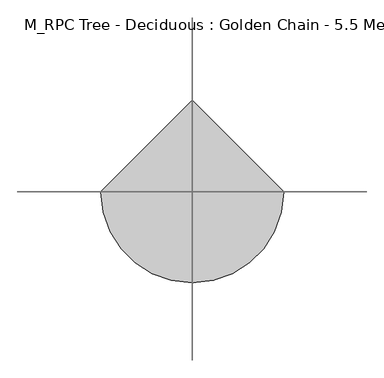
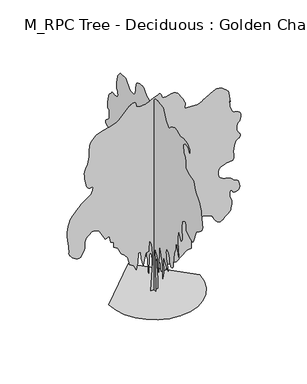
"""IFC4 building model written with IfcOpenShell, lengths in millimetres: geographic element geometry, M_RPC Tree - Deciduous : Golden Chain - 5.5 Meters."""

from ifc_helpers import new_model, si_unit, origin, place, context, project, spatial, triangles, source, transform, mapped, element, save


def m_rpc_tree_deciduous_golden_chain_5_5_meters_6778af60(model_context):
    return source(origin(), model_context, "Body", "Tessellation", [
        triangles([(-0.0021492, 84.2526153, 0.0017055), (-0.0021492, -79.7118042, 0.0017055), (-0.0021492, -55.1171299, 770.634066), (-0.0021492, -30.52271, 1205.1391577), (-0.0021492, -128.9011618, 1090.3648407), (-0.0021492, -161.6941456, 983.7870438), (-0.0021492, -161.6941456, 778.8331295), (-0.0021492, -202.6851937, 614.8669024), (-0.0021492, -227.2798771, 1410.0956154), (-0.0021492, -292.8648273, 1254.3285244), (-0.0021492, -391.2435245, 934.5977497), (-0.0021492, -407.6416878, 557.4810519), (-0.0021492, -448.6319547, 754.2384825), (-0.0021492, -424.0372713, 1123.1586239), (-0.0021492, -399.4426243, 1229.7338047), (-0.0021492, -563.4062716, 1024.7798904), (-0.0021492, -645.3893852, 910.00303), (-0.0021492, -571.6053351, 1164.1488544), (-0.0021492, -566.3701532, 1202.7023878), (-0.0021492, -561.3514189, 1240.6803749), (-0.0021492, -556.7629998, 1277.5125744), (-0.0021492, -552.8187638, 1312.6233673), (-0.0021492, -549.7351948, 1345.442585), (-0.0021492, -547.7261604, 1375.3895943), (-0.0021492, -547.0106518, 1401.8965519), (-0.0021492, -548.2048739, 1425.0576382), (-0.0021492, -551.550709, 1445.6369053), (-0.0021492, -556.6891308, 1464.0644142), (-0.0021492, -563.2636931, 1480.7706619), (-0.0021492, -570.9127539, 1496.1884708), (-0.0021492, -579.2773232, 1510.7457218), (-0.0021492, -588.000955, 1524.870005), (-0.0021492, -615.9185097, 1493.2475166), (-0.0021492, -642.6877333, 1461.6276443), (-0.0021492, -667.1627655, 1430.0051559), (-0.0021492, -688.1976734, 1398.3826675), (-0.0021492, -704.6416552, 1366.7627953), (-0.0021492, -715.3488504, 1335.1403069), (-0.0021492, -719.173399, 1303.5178185), (-0.0021492, -720.8463346, 1273.0922047), (-0.0021492, -725.5315138, 1244.8155876), (-0.0021492, -732.7248247, 1218.3340645), (-0.0021492, -741.9270973, 1193.2836313), (-0.0021492, -752.6342926, 1169.31024), (-0.0021492, -764.3472404, 1146.0549007), (-0.0021492, -776.5592857, 1123.1586239), (-0.0021492, -799.2416948, 1123.4208899), (-0.0021492, -820.9921841, 1125.2618385), (-0.0021492, -840.8787609, 1130.2576818), (-0.0021492, -857.9695055, 1139.9845591), (-0.0021492, -871.3298819, 1156.0210802), (-0.0021492, -880.0305862, 1179.9486168), (-0.0021492, -883.1370827, 1213.3382212), (-0.0021492, -884.8100183, 1255.5711811), (-0.0021492, -889.4951975, 1304.2589069), (-0.0021492, -896.6884357, 1358.3243568), (-0.0021492, -905.890781, 1416.6930325), (-0.0021492, -916.5979763, 1478.2854939), (-0.0021492, -928.3109241, 1542.0320389), (-0.0021492, -940.5255129, 1606.8530823), (-0.0021492, -1006.1104631, 1762.6177025), (-0.0021492, -1030.7051102, 2041.3581013), (-0.0021492, -1137.2829071, 1615.0495296), (-0.0021492, -1096.2900604, 2033.1590378), (-0.0021492, -1120.8847801, 2385.6835957), (-0.0021492, -1260.2563602, 2139.7368347), (-0.0021492, -1270.7241806, 2153.8611179), (-0.0021492, -1280.7616493, 2168.4183689), (-0.0021492, -1289.9410309, 2183.833707), (-0.0021492, -1297.8295029, 2200.5424255), (-0.0021492, -1303.9940975, 2218.9699345), (-0.0021492, -1308.0095501, 2239.5492016), (-0.0021492, -1309.4456543, 2262.7102879), (-0.0021492, -1307.6275967, 2290.0778034), (-0.0021492, -1302.9424175, 2322.033847), (-0.0021492, -1296.538448, 2357.1447853), (-0.0021492, -1289.5590775, 2393.9769848), (-0.0021492, -1283.1526371, 2431.0968121), (-0.0021492, -1278.467458, 2467.0683083), (-0.0021492, -1276.6518711, 2500.45784), (-0.0021492, -1277.8461296, 2532.7959824), (-0.0021492, -1281.1944717, 2566.4375336), (-0.0021492, -1286.3329662, 2601.1435547), (-0.0021492, -1292.9049488, 2636.6899315), (-0.0021492, -1300.5540459, 2672.8981865), (-0.0021492, -1308.9185062, 2709.5395546), (-0.0021492, -1317.642247, 2746.4096878), (-0.0021492, -1349.0965771, 2763.5973015), (-0.0021492, -1379.5477707, 2778.4931946), (-0.0021492, -1407.98993, 2788.7800667), (-0.0021492, -1433.4222439, 2792.1923584), (-0.0021492, -1454.8366344, 2786.4374771), (-0.0021492, -1471.2347614, 2769.1992851), (-0.0021492, -1481.6057854, 2738.2107697), (-0.0021492, -1484.4041611, 2701.900486), (-0.0021492, -1481.8935585, 2669.6135033), (-0.0021492, -1478.8100258, 2640.3309883), (-0.0021492, -1479.8871403, 2613.0602692), (-0.0021492, -1489.8532471, 2586.7825127), (-0.0021492, -1513.444685, 2560.5300453), (-0.0021492, -1555.3924152, 2533.2517685), (-0.0021492, -1606.8988644, 2505.0718025), (-0.0021492, -1655.253035, 2478.4681938), (-0.0021492, -1699.3015091, 2456.025087), (-0.0021492, -1737.903368, 2440.3219757), (-0.0021492, -1769.9076645, 2433.9411152), (-0.0021492, -1794.1662128, 2439.4615631), (-0.0021492, -1809.5357689, 2459.4676094), (-0.0021492, -1957.1037964, 2820.1761154), (-0.0021492, -2096.4727604, 2918.5648773), (-0.0021492, -2133.9033245, 2947.2108032), (-0.0021492, -2168.0337994, 2976.9770096), (-0.0021492, -2197.5760368, 3008.067263), (-0.0021492, -2221.2386913, 3040.5580124), (-0.0021492, -2237.731144, 3074.6530243), (-0.0021492, -2245.7620491, 3110.453746), (-0.0021492, -2244.0407879, 3148.1136566), (-0.0021492, -2235.2459759, 3194.9398682), (-0.0021492, -2223.869054, 3254.6760475), (-0.0021492, -2211.3438011, 3322.1530334), (-0.0021492, -2199.1063213, 3392.2013741), (-0.0021492, -2188.5901028, 3459.67836), (-0.0021492, -2181.2287788, 3519.4145393), (-0.0021492, -2178.4558376, 3566.2154617), (-0.0021492, -2170.3281361, 3608.6875786), (-0.0021492, -2147.5744377, 3658.060437), (-0.0021492, -2112.6315125, 3713.1367264), (-0.0021492, -2067.9338047, 3772.8217461), (-0.0021492, -2015.9257874, 3835.9446373), (-0.0021492, -1959.038998, 3901.3845383), (-0.0021492, -1899.7152935, 3967.9447197), (-0.0021492, -1842.3294067, 4197.4932083), (-0.0021492, -1629.1739582, 4246.6875893), (-0.0021492, -1457.0136818, 4328.652935), (-0.0021492, -1458.3505188, 4335.1970123), (-0.0021492, -1461.6963902, 4352.7409996), (-0.0021492, -1466.0480141, 4378.3565872), (-0.0021492, -1470.3970219, 4408.9631493), (-0.0021492, -1473.7428932, 4441.6065056), (-0.0021492, -1475.082201, 4473.2060303), (-0.0021492, -1473.409338, 4500.8334137), (-0.0021492, -1467.7438408, 4526.8565346), (-0.0021492, -1458.2079403, 4555.4515915), (-0.0021492, -1445.4433125, 4586.2107605), (-0.0021492, -1430.0993362, 4618.7015099), (-0.0021492, -1412.8176876, 4652.4654373), (-0.0021492, -1394.2474548, 4687.1205894), (-0.0021492, -1375.0306046, 4722.1829842), (-0.0021492, -1342.2368214, 4918.9352188), (-0.0021492, -1448.8146183, 5009.1250626), (-0.0021492, -1579.9871349, 4984.5277267), (-0.0021492, -1653.7685326, 4877.9400467), (-0.0021492, -1653.7685326, 4976.3288086), (-0.0021492, -1538.9942883, 5082.8914902), (-0.0021492, -1350.4358849, 5107.488826), (-0.0021492, -1202.8678574, 5074.692572), (-0.0021492, -1055.2998299, 5156.6829163), (-0.0021492, -948.7220329, 5164.8818344), (-0.0021492, -940.8819592, 5161.1390396), (-0.0021492, -920.1372952, 5151.1065125), (-0.0021492, -890.6409851, 5136.4911255), (-0.0021492, -856.5588358, 5118.9980072), (-0.0021492, -822.0437914, 5100.3334488), (-0.0021492, -791.2590425, 5082.280481), (-0.0021492, -768.3627657, 5066.4930725), (-0.0021492, -752.5400396, 5050.8591431), (-0.0021492, -739.1541561, 5033.7985565), (-0.0021492, -726.6289759, 5017.8844116), (-0.0021492, -713.3882143, 5005.6874817), (-0.0021492, -697.8532614, 4999.805864), (-0.0021492, -678.4453617, 5002.8359116), (-0.0021492, -653.5859053, 5017.2989822), (-0.0021492, -627.1527803, 5039.5790176), (-0.0021492, -603.7294281, 5064.0234558), (-0.0021492, -582.814135, 5090.2247635), (-0.0021492, -563.9078762, 5117.8777267), (-0.0021492, -546.5090472, 5146.6253906), (-0.0021492, -530.1108839, 5176.0602219), (-0.0021492, -514.2169049, 5205.8775879), (-0.0021492, -415.8382078, 5410.8290314), (-0.0021492, -169.8924643, 5451.8242035), (-0.0021492, -163.845268, 5451.6713058), (-0.0021492, -147.6161895, 5450.6783432), (-0.0021492, -124.0728773, 5447.9540909), (-0.0021492, -96.0842423, 5442.6323227), (-0.0021492, -66.5181736, 5433.8985535), (-0.0021492, -38.2425694, 5420.8359787), (-0.0021492, -14.1260625, 5402.6295319), (-0.0021492, 3.3458589, 5384.2457703), (-0.0021492, 15.2248406, 5370.0373352), (-0.0021492, 23.9488607, 5358.0950409), (-0.0021492, 31.9557643, 5346.6114395), (-0.0021492, 41.6836339, 5333.6761826), (-0.0021492, 55.5706269, 5317.4306625), (-0.0021492, 76.0543103, 5296.0418518), (-0.0021492, 97.13535, 5271.2916183), (-0.0021492, 113.1971331, 5247.5349289), (-0.0021492, 127.2514169, 5226.7827072), (-0.0021492, 142.3091915, 5211.0464584), (-0.0021492, 161.3827366, 5202.3638489), (-0.0021492, 187.483033, 5202.6946426), (-0.0021492, 223.6221062, 5214.076506), (-0.0021492, 264.351397, 5233.7851868), (-0.0021492, 302.4974698, 5257.3889786), (-0.0021492, 338.4919115, 5284.2012955), (-0.0021492, 372.7676173, 5313.5855484), (-0.0021492, 405.7523409, 5344.9307281), (-0.0021492, 437.8763975, 5377.549086), (-0.0021492, 469.5675954, 5410.8290314), (-0.0021492, 492.466452, 5419.4860611), (-0.0021492, 515.7217913, 5427.3286057), (-0.0021492, 539.6951463, 5433.618338), (-0.0021492, 564.7456158, 5437.5396103), (-0.0021492, 591.2271026, 5438.3035172), (-0.0021492, 619.503756, 5435.1205719), (-0.0021492, 649.9294424, 5427.2268677), (-0.0021492, 681.4067362, 5417.9076691), (-0.0021492, 712.0259428, 5409.8610672), (-0.0021492, 740.9213448, 5401.4075134), (-0.0021492, 767.2373257, 5390.7895569), (-0.0021492, 790.1107115, 5376.3009064), (-0.0021492, 808.6833424, 5356.2364334), (-0.0021492, 822.0921896, 5328.8381058), (-0.0021492, 831.6764156, 5297.4679276), (-0.0021492, 839.5393805, 5266.5047012), (-0.0021492, 845.9687845, 5235.9240097), (-0.0021492, 851.2523283, 5205.5973724), (-0.0021492, 855.672698, 5175.5253708), (-0.0021492, 859.522681, 5145.5556885), (-0.0021492, 863.0824202, 5115.6877441), (-0.0021492, 868.5086151, 5085.9976959), (-0.0021492, 874.8667299, 5057.4029297), (-0.0021492, 883.0886845, 5030.9469864), (-0.0021492, 894.1065439, 5007.6989868), (-0.0021492, 908.8546263, 4988.7803741), (-0.0021492, 928.2625259, 4975.2085281), (-0.0021492, 953.2646336, 4968.1298904), (-0.0021492, 983.5706326, 4964.7940475), (-0.0021492, 1017.0340696, 4962.6296448), (-0.0021492, 1051.7859455, 4962.7313828), (-0.0021492, 1085.9648186, 4966.2962814), (-0.0021492, 1117.7069944, 4974.4446213), (-0.0021492, 1145.1458719, 4988.347261), (-0.0021492, 1166.4176113, 5009.1250626), (-0.0021492, 1187.9516893, 5037.6180908), (-0.0021492, 1215.2250246, 5071.5857849), (-0.0021492, 1244.9327316, 5107.4120865), (-0.0021492, 1273.7822788, 5141.5326782), (-0.0021492, 1298.4736496, 5170.3309204), (-0.0021492, 1315.7070454, 5190.2430771), (-0.0021492, 1322.1822315, 5197.6786697), (-0.0021492, 1576.328056, 5181.2802521), (-0.0021492, 1674.7067894, 5058.2941544), (-0.0021492, 1679.9878624, 5049.3057495), (-0.0021492, 1685.3426228, 5039.1203247), (-0.0021492, 1690.840107, 5026.4652832), (-0.0021492, 1696.5540024, 5010.1691849), (-0.0021492, 1702.550584, 4988.9838501), (-0.0021492, 1708.9086262, 4961.7134216), (-0.0021492, 1715.69702, 4927.1347183), (-0.0021492, 1722.2461842, 4888.9655365), (-0.0021492, 1727.9344997, 4851.6622902), (-0.0021492, 1732.907452, 4815.0465019), (-0.0021492, 1737.304858, 4779.0417229), (-0.0021492, 1741.2720577, 4743.4444771), (-0.0021492, 1744.9539551, 4708.1530266), (-0.0021492, 1748.4908031, 4672.9886032), (-0.0021492, 1731.0893944, 4648.3403984), (-0.0021492, 1714.6937382, 4623.4122688), (-0.0021492, 1700.3046455, 4597.9237083), (-0.0021492, 1688.927869, 4571.5442139), (-0.0021492, 1681.5665451, 4544.0441483), (-0.0021492, 1679.2239555, 4515.0927177), (-0.0021492, 1682.9058529, 4484.4352867), (-0.0021492, 1691.9172215, 4457.546521), (-0.0021492, 1704.798848, 4438.9584114), (-0.0021492, 1721.4109154, 4426.9908279), (-0.0021492, 1741.6082291, 4419.8866104), (-0.0021492, 1765.2454491, 4415.940049), (-0.0021492, 1792.1827583, 4413.4445618), (-0.0021492, 1822.2748169, 4410.6435699), (-0.0021492, 1851.5776794, 4410.5162521), (-0.0021492, 1877.0099934, 4414.7177399), (-0.0021492, 1899.7152935, 4419.453788), (-0.0021492, 1920.8445271, 4421.0580505), (-0.0021492, 1941.543409, 4415.7871513), (-0.0021492, 1962.9576542, 4399.8982956), (-0.0021492, 1986.2385006, 4369.6483978), (-0.0021492, 2009.8529022, 4339.016256), (-0.0021492, 2031.6033188, 4320.2755394), (-0.0021492, 2051.6324741, 4307.2641243), (-0.0021492, 2070.0854176, 4293.8451759), (-0.0021492, 2087.1024021, 4273.8057014), (-0.0021492, 2102.8308025, 4241.0094475), (-0.0021492, 2117.4110172, 4189.2939995), (-0.0021492, 2130.4606567, 4132.1297562), (-0.0021492, 2141.5040234, 4085.4561516), (-0.0021492, 2150.5382103, 4046.6759605), (-0.0021492, 2157.565979, 4013.1922485), (-0.0021492, 2162.5848587, 3982.4330795), (-0.0021492, 2165.5945587, 3951.8009377), (-0.0021492, 2166.6003113, 3918.7500481), (-0.0021492, 2163.9699486, 3888.1437767), (-0.0021492, 2156.6086246, 3865.7361328), (-0.0021492, 2145.3030647, 3850.1274925), (-0.0021492, 2130.8426102, 3839.9676476), (-0.0021492, 2114.0167477, 3833.9075523), (-0.0021492, 2095.6120571, 3830.5464203), (-0.0021492, 2076.4181705, 3828.5602043), (-0.0021492, 2076.4181705, 3615.4098427), (-0.0021492, 2076.5861835, 3611.7687859), (-0.0021492, 2077.7574783, 3607.2362137), (-0.0021492, 2080.9351913, 3600.9979317), (-0.0021492, 2087.1278366, 3592.1877136), (-0.0021492, 2097.3334637, 3579.9143349), (-0.0021492, 2112.5576797, 3563.3636009), (-0.0021492, 2133.8065281, 3541.6437057), (-0.0021492, 2158.6890209, 3518.8288193), (-0.0021492, 2183.2835953, 3498.7640556), (-0.0021492, 2206.2996323, 3480.0997879), (-0.0021492, 2226.4484024, 3461.6134163), (-0.0021492, 2242.4391415, 3441.9561859), (-0.0021492, 2252.9807945, 3419.8796265), (-0.0021492, 2256.7799812, 3394.0602722), (-0.0021492, 2250.3276134, 3369.7687317), (-0.0021492, 2232.2566235, 3352.3773514), (-0.0021492, 2204.5070091, 3340.7152725), (-0.0021492, 2169.0142628, 3333.6366348), (-0.0021492, 2127.7106792, 3329.995578), (-0.0021492, 2082.5368378, 3328.6715309), (-0.0021492, 2035.4277946, 3328.4677643), (-0.0021492, 2021.5658501, 3329.995578), (-0.0021492, 2008.8496204, 3330.1737648), (-0.0021492, 1998.4275822, 3327.6274086), (-0.0021492, 1991.4508278, 3320.9815933), (-0.0021492, 1989.05984, 3308.886692), (-0.0021492, 1992.405566, 3289.9677887), (-0.0021492, 2002.6366276, 3262.9005455), (-0.0021492, 2020.3945553, 3234.9676575), (-0.0021492, 2044.3195484, 3213.2224731), (-0.0021492, 2072.5477673, 3195.7802238), (-0.0021492, 2103.212756, 3180.7570129), (-0.0021492, 2134.4508202, 3166.3195221), (-0.0021492, 2164.4003002, 3150.6088531), (-0.0021492, 2191.195031, 3131.7155296), (-0.0021492, 2214.6667088, 3115.4700096), (-0.0021492, 2235.4113728, 3106.0996513), (-0.0021492, 2252.7159851, 3099.4538361), (-0.0021492, 2265.8625664, 3091.381945), (-0.0021492, 2274.1329918, 3077.7083611), (-0.0021492, 2276.8091366, 3054.2824654), (-0.0021492, 2273.1754921, 3016.9539299), (-0.0021492, 2263.7593517, 2975.5765137), (-0.0021492, 2250.0398403, 2941.939904), (-0.0021492, 2232.735228, 2914.7709229), (-0.0021492, 2212.5634941, 2892.7455231), (-0.0021492, 2190.2375313, 2874.6158157), (-0.0021492, 2166.4806965, 2859.0580444), (-0.0021492, 2142.0055916, 2844.7731606), (-0.0021492, 2133.3761765, 2827.1783043), (-0.0021492, 2125.6812973, 2809.2779434), (-0.0021492, 2119.8477871, 2790.7918625), (-0.0021492, 2116.8125072, 2771.4654259), (-0.0021492, 2117.5051975, 2750.9675491), (-0.0021492, 2122.8599579, 2729.044178), (-0.0021492, 2133.8065281, 2705.4145157), (-0.0021492, 2153.6931049, 2682.9815826), (-0.0021492, 2182.4714355, 2663.4005104), (-0.0021492, 2215.980582, 2644.532476), (-0.0021492, 2250.062804, 2624.2386566), (-0.0021492, 2280.5623959, 2600.3543587), (-0.0021492, 2303.3160942, 2570.7407593), (-0.0021492, 2314.1683388, 2533.2517685), (-0.0021492, 2316.6306885, 2491.7827881), (-0.0021492, 2316.7960854, 2450.4562408), (-0.0021492, 2314.3822792, 2407.4085777), (-0.0021492, 2309.1012062, 2360.7782845), (-0.0021492, 2300.6627678, 2308.6964344), (-0.0021492, 2288.7842777, 2249.3015133), (-0.0021492, 2273.1754921, 2180.7272106), (-0.0021492, 2256.9479942, 2122.3126076), (-0.0021492, 2242.7269146, 2087.8459614), (-0.0021492, 2229.5091167, 2067.1470795), (-0.0021492, 2216.2913189, 2050.0334438), (-0.0021492, 2202.0702393, 2026.3248619), (-0.0021492, 2185.8401253, 1985.8335835), (-0.0021492, 2166.6003113, 1918.3847935), (-0.0021492, 2149.5808559, 1842.5203835), (-0.0021492, 2138.8736607, 1783.2936207), (-0.0021492, 2131.7517117, 1740.2713921), (-0.0021492, 2125.4903206, 1713.0234913), (-0.0021492, 2117.362619, 1701.1195667), (-0.0021492, 2104.6463894, 1704.1317375), (-0.0021492, 2084.617234, 1721.6273266), (-0.0021492, 2060.5012642, 1758.0775726), (-0.0021492, 2037.2458523, 1813.4570412), (-0.0021492, 2014.7060944, 1880.5977104), (-0.0021492, 1992.7391212, 1952.324437), (-0.0021492, 1971.2051159, 2021.4716698), (-0.0021492, 1949.9562675, 2080.8664455), (-0.0021492, 1928.8526138, 2123.3387077), (-0.0021492, 1903.2291779, 2154.4824463), (-0.0021492, 1869.4322582, 2184.7680977), (-0.0021492, 1828.8238358, 2214.3331535), (-0.0021492, 1782.7664726, 2243.3252792), (-0.0021492, 1732.6196789, 2271.8870533), (-0.0021492, 1679.7509583, 2300.1636703), (-0.0021492, 1625.51735, 2328.2952381), (-0.0021492, 1580.1042789, 2357.6693172), (-0.0021492, 1536.2697453, 2384.1049129), (-0.0021492, 1495.5901062, 2404.6612164), (-0.0021492, 1459.6414284, 2416.3971279), (-0.0021492, 1430.0025398, 2416.3715481), (-0.0021492, 1408.2521233, 2401.6489002), (-0.0021492, 1395.9662453, 2369.2854687), (-0.0021492, 1387.7442181, 2327.3633183), (-0.0021492, 1377.3731941, 2285.8713741), (-0.0021492, 1365.2069309, 2244.7359489), (-0.0021492, 1351.6071796, 2203.8882969), (-0.0021492, 1336.9303139, 2163.2544399), (-0.0021492, 1321.5379395, 2122.7657776), (-0.0021492, 1305.7865753, 2082.3484772), (-0.0021492, 1125.4248373, 1926.583857), (-0.0021492, 1107.9775738, 1907.1276318), (-0.0021492, 1091.2458916, 1886.8820652), (-0.0021492, 1075.9502409, 1865.0602867), (-0.0021492, 1062.8037323, 1840.8729549), (-0.0021492, 1052.5268887, 1813.5282578), (-0.0021492, 1045.8352186, 1782.2419407), (-0.0021492, 1043.4442308, 1746.2220463), (-0.0021492, 1042.7261787, 1711.1595062), (-0.0021492, 1040.7196878, 1682.5468632), (-0.0021492, 1037.6361551, 1659.3168858), (-0.0021492, 1033.6919191, 1640.3851925), (-0.0021492, 1029.1035364, 1624.6822266), (-0.0021492, 1024.0847294, 1611.1308735), (-0.0021492, 1018.8495838, 1598.6540188), (-0.0021492, 871.2814837, 1500.2752853), (-0.0021492, 854.8859001, 1328.1125381), (-0.0021492, 731.9125196, 1270.7241806), (-0.0021492, 699.1188091, 1057.5711302), (-0.0021492, 567.9463288, 1024.7798904), (-0.0021492, 579.9928319, 1019.3537682), (-0.0021492, 590.5345213, 1012.9956533), (-0.0021492, 598.0638946, 1004.7736261), (-0.0021492, 601.0736309, 993.7558393), (-0.0021492, 598.0638946, 979.0076843), (-0.0021492, 587.5222415, 959.5997847), (-0.0021492, 567.9463288, 934.5977497), (-0.0021492, 544.3090362, 908.8801334), (-0.0021492, 522.3905339, 887.4631994), (-0.0021492, 501.9081359, 869.6340551), (-0.0021492, 482.5715618, 854.6720324), (-0.0021492, 464.0956183, 841.8616224), (-0.0021492, 446.192605, 830.4822298), (-0.0021492, 428.5773285, 819.8234327), (-0.0021492, 416.3169213, 852.4974558), (-0.0021492, 404.2703819, 880.9396151), (-0.0021492, 392.6541942, 900.9203722), (-0.0021492, 381.6821895, 908.2104795), (-0.0021492, 371.5733952, 898.5777826), (-0.0021492, 362.5365921, 867.7931065), (-0.0021492, 354.7933147, 811.6243692), (-0.0021492, 347.289376, 757.5588467), (-0.0021492, 338.9222268, 728.4470335), (-0.0021492, 329.8396053, 713.1030573), (-0.0021492, 320.1840537, 700.3409729), (-0.0021492, 310.0981504, 678.9725098), (-0.0021492, 299.7245467, 637.8141209), (-0.0021492, 289.2083463, 565.677572), (-0.0021492, 280.1002358, 485.3215393), (-0.0021492, 273.5766333, 424.7553234), (-0.0021492, 269.2021002, 380.6814875), (-0.0021492, 266.5488464, 349.8000149), (-0.0021492, 265.1865749, 328.815976), (-0.0021492, 264.6849704, 314.426847), (-0.0021492, 264.613663, 303.3351912), (-0.0021492, 240.0187434, 811.6243692), (-0.0021492, 227.6618124, 844.6574547), (-0.0021492, 214.9461096, 875.6102165), (-0.0021492, 201.5133903, 902.4023312), (-0.0021492, 187.005355, 922.9585619), (-0.0021492, 171.062996, 935.1961143), (-0.0021492, 153.328032, 937.037063), (-0.0021492, 133.4419729, 926.401157), (-0.0021492, 115.707018, 904.291678), (-0.0021492, 103.9950694, 874.0085701), (-0.0021492, 97.3026454, 836.9141773), (-0.0021492, 94.6257194, 794.3680824), (-0.0021492, 94.9603011, 747.7377892), (-0.0021492, 97.3026454, 698.3803368), (-0.0021492, 100.6487348, 647.6606855), (-0.0021492, 84.2526153, 237.7499866), (88.4435659, 0.0002505, 0.0), (-86.3932913, 0.0002505, 0.0), (-44.7656723, 0.0002025, 807.5807934), (-36.4400473, 0.0001919, 1032.3704155), (-69.7422955, 0.0001759, 1307.1158546), (-128.0216733, 0.0001652, 1448.6490761), (-144.6726646, 0.0001865, 1140.6032713), (-227.9278935, 0.0001865, 1115.6266708), (-294.532658, 0.0002025, 799.2544121), (-352.8122947, 0.0001919, 999.0699772), (-361.138676, 0.0001812, 1182.2301636), (-427.7421324, 0.0001812, 1182.2301636), (-444.3923879, 0.0001972, 915.8137218), (-486.0217873, 0.0002079, 732.6509193), (-552.6252437, 0.0002025, 874.1842861), (-660.8581358, 0.0001972, 940.7903223), (-702.4849554, 0.0001812, 1157.2534904), (-785.7412107, 0.0001759, 1257.1625084), (-877.3238474, 0.0001759, 1332.0923824), (-977.2303219, 0.0001599, 1523.5789501), (-1085.4632504, 0.0001599, 1581.8586777), (-1085.4632504, 0.0001492, 1723.3945152), (-1160.3931244, 0.0001492, 1748.3711884), (-1202.019944, 0.0001386, 1939.857756), (-1318.5792538, 0.0001386, 1889.9044098), (-1468.4390018, 0.0001226, 2172.9736141), (-1502.3250149, 0.0001226, 2194.0442757), (-1536.1347244, 0.0001226, 2213.0727654), (-1569.8018555, 0.0001173, 2228.0246143), (-1603.2501045, 0.0001173, 2236.8602669), (-1636.4053482, 0.0001173, 2237.5401672), (-1669.1991314, 0.0001173, 2228.0246143), (-1701.5548599, 0.0001226, 2206.2766685), (-1733.4726791, 0.0001226, 2179.018594), (-1764.2269066, 0.0001226, 2153.3621658), (-1792.651189, 0.0001279, 2127.850787), (-1817.579464, 0.0001279, 2101.0306217), (-1837.8479942, 0.0001279, 2071.4426022), (-1852.2879559, 0.0001332, 2037.6304218), (-1859.7409893, 0.0001332, 1998.1373383), (-1862.0709343, 0.0001386, 1954.9318359), (-1863.0894768, 0.0001386, 1911.4359444), (-1864.5459286, 0.0001439, 1868.3754913), (-1868.1871307, 0.0001439, 1826.4812462), (-1875.759779, 0.0001439, 1786.4790367), (-1889.0133305, 0.0001492, 1749.0993416), (-1909.6943356, 0.0001492, 1715.0681339), (-1930.6655846, 0.0001546, 1683.7079842), (-1945.9586918, 0.0001546, 1654.8226833), (-1959.0644325, 0.0001546, 1629.87159), (-1973.4840466, 0.0001546, 1610.3057785), (-1992.7085999, 0.0001599, 1597.5870781), (-2020.2341, 0.0001599, 1593.1693245), (-2059.5539383, 0.0001599, 1598.5088242), (-2106.0849644, 0.0001546, 1614.4818317), (-2151.4523987, 0.0001546, 1639.6289886), (-2193.4662586, 0.0001546, 1671.9108845), (-2229.9496422, 0.0001492, 1709.2905796), (-2258.7125668, 0.0001492, 1749.7308437), (-2277.5730434, 0.0001439, 1791.1870342), (-2284.3435604, 0.0001439, 1831.6274437), (-2284.0049183, 0.0001439, 1867.2347179), (-2283.6662762, 0.0001386, 1899.34613), (-2284.3435604, 0.0001386, 1933.6447632), (-2287.0630165, 0.0001332, 1975.8062885), (-2292.8405708, 0.0001332, 2031.5116093), (-2302.6947659, 0.0001279, 2106.4440994), (-2317.6466148, 0.0001226, 2206.2766685), (-2328.3767738, 0.0001119, 2318.4664776), (-2327.0169731, 0.0001066, 2424.8304794), (-2316.773267, 0.0001013, 2522.6006744), (-2300.8512737, 9.59e-05, 2609.0116791), (-2282.4516701, 9.06e-05, 2681.301162), (-2264.780365, 9.06e-05, 2736.6829559), (-2251.0431221, 8.53e-05, 2772.4075195), (-2228.7604706, 8.53e-05, 2807.0370918), (-2187.9815643, 7.99e-05, 2856.639006), (-2135.6984184, 7.99e-05, 2914.8473717), (-2078.9007225, 7.46e-05, 2975.2454292), (-2024.5780209, 7.46e-05, 3031.4167099), (-1979.7200031, 6.93e-05, 3076.9444542), (-1951.3211552, 6.93e-05, 3105.4374825), (-1924.2819626, 6.4e-05, 3127.0812195), (-1882.823156, 6.4e-05, 3155.2940323), (-1832.9183533, 6.4e-05, 3188.4469505), (-1780.5385563, 5.86e-05, 3224.9607101), (-1731.6521507, 5.86e-05, 3263.2060501), (-1692.2328999, 5.33e-05, 3301.6042877), (-1668.2519508, 5.33e-05, 3338.5511604), (-1656.1646072, 5.33e-05, 3371.3218346), (-1648.0088551, 4.8e-05, 3398.84748), (-1643.1300831, 4.8e-05, 3421.9931602), (-1640.8716454, 4.8e-05, 3441.6759705), (-1640.5812561, 4.8e-05, 3458.7106865), (-1641.5997986, 4.8e-05, 3473.988533), (-1643.2752777, 4.26e-05, 3488.4260239), (-1673.4947994, 4.26e-05, 3483.4862091), (-1703.0597099, 4.26e-05, 3481.1180397), (-1731.3135086, 4.26e-05, 3483.8172935), (-1757.6014389, 4.26e-05, 3494.1806145), (-1781.2667095, 4.26e-05, 3514.7546494), (-1801.6574707, 4.26e-05, 3548.0601746), (-1818.1141697, 3.73e-05, 3596.6435463), (-1832.6281094, 3.2e-05, 3658.2386238), (-1846.5614159, 3.2e-05, 3726.3519081), (-1858.3075012, 2.66e-05, 3797.4190819), (-1866.2698059, 2.13e-05, 3867.7223488), (-1868.8440674, 1.6e-05, 3933.671521), (-1864.4261684, 1.6e-05, 3991.625251), (-1851.414608, 1.07e-05, 4037.8913223), (-1831.8514126, 1.07e-05, 4080.6180748), (-1810.1034668, 5.3e-06, 4129.8889046), (-1788.0628063, 5.3e-06, 4185.1436714), (-1767.626263, 0.0, 4245.7710754), (-1750.6831112, -5.3e-06, 4311.2106857), (-1739.1280025, -1.07e-05, 4380.8773636), (-1734.8579144, -1.07e-05, 4454.1853889), (-1735.4894165, -1.6e-05, 4523.877356), (-1735.8280586, -2.13e-05, 4584.5303398), (-1733.5466572, -2.13e-05, 4638.3334511), (-1726.3125057, -2.66e-05, 4687.5025429), (-1711.7987114, -3.2e-05, 4734.1761475), (-1687.6699516, -3.2e-05, 4780.5442474), (-1651.601659, -3.73e-05, 4828.8218239), (-1604.6581581, -3.73e-05, 4875.2407928), (-1551.3056007, -4.26e-05, 4914.6575729), (-1494.3144573, -4.26e-05, 4947.2247711), (-1436.4472046, -4.26e-05, 4973.1202835), (-1380.4746037, -4.26e-05, 4992.421431), (-1329.161602, -4.8e-05, 5005.3566879), (-1285.2761993, -4.8e-05, 5012.0022125), (-1238.819006, -4.8e-05, 5019.8197586), (-1181.7285227, -4.8e-05, 5034.7665207), (-1119.6854347, -4.8e-05, 5054.8059952), (-1058.3731888, -4.8e-05, 5077.9260956), (-1003.4673832, -5.33e-05, 5102.03974), (-960.651392, -5.33e-05, 5125.1598404), (-935.6009588, -5.33e-05, 5145.1993149), (-669.1845171, -6.93e-05, 5428.27099), (-646.0030106, -6.93e-05, 5444.1601364), (-622.8954094, -7.46e-05, 5458.928421), (-599.9328938, -7.46e-05, 5471.5328842), (-577.1893693, -7.46e-05, 5480.8520828), (-554.7386684, -7.46e-05, 5485.7918976), (-532.6495734, -7.46e-05, 5485.2826263), (-510.9983877, -7.46e-05, 5478.2295685), (-495.8275477, -7.46e-05, 5462.4933197), (-489.5407585, -6.93e-05, 5439.0418442), (-486.7500132, -6.93e-05, 5411.3888809), (-482.064834, -6.93e-05, 5382.9725922), (-470.0972506, -6.93e-05, 5357.3567139), (-445.4618357, -6.4e-05, 5337.9794083), (-402.7655319, -6.4e-05, 5328.3544144), (-352.1553217, -6.4e-05, 5326.9794983), (-306.7905035, -6.4e-05, 5329.5258545), (-265.7951497, -6.4e-05, 5335.3568939), (-228.2925333, -6.4e-05, 5343.8104477), (-193.4123404, -6.4e-05, 5354.2249283), (-160.2801876, -6.93e-05, 5365.9375854), (-128.0216733, -6.93e-05, 5378.3124115), (-76.4902348, -6.93e-05, 5408.3588333), (-26.1968067, -6.93e-05, 5436.7501236), (21.6206779, -7.46e-05, 5461.7805725), (65.7244948, -7.46e-05, 5481.7688873), (104.8766017, -7.46e-05, 5495.0605179), (137.8389157, -7.46e-05, 5500.0003326), (163.3739486, -7.46e-05, 5494.8820404), (179.7578323, -7.46e-05, 5482.2525787), (188.4231282, -7.46e-05, 5466.2872742), (192.8648993, -7.46e-05, 5447.6994553), (196.5786624, -6.93e-05, 5427.2012878), (203.0594986, -6.93e-05, 5405.5578415), (215.8026888, -6.93e-05, 5383.4562836), (238.3035501, -6.93e-05, 5361.6599396), (275.7078804, -6.4e-05, 5352.0093658), (327.5301169, -6.93e-05, 5359.8263306), (388.8194718, -6.93e-05, 5376.0974304), (454.6234131, -6.93e-05, 5391.7569397), (519.9893723, -6.93e-05, 5397.8426147), (579.9673974, -6.93e-05, 5385.2643127), (629.6048836, -6.4e-05, 5345.0068863), (669.510442, -6.4e-05, 5289.625383), (704.1731518, -5.86e-05, 5237.2989258), (734.4638901, -5.86e-05, 5187.5188248), (761.2611643, -5.33e-05, 5139.7758087), (785.4382496, -5.33e-05, 5093.5606064), (807.8660231, -4.8e-05, 5048.3633652), (829.420376, -4.8e-05, 5003.6759766), (821.0939947, -3.73e-05, 4853.8011131), (1104.163199, -3.73e-05, 4837.1483505), (1130.912075, -3.73e-05, 4839.0834068), (1157.5870457, -3.73e-05, 4841.7826607), (1184.116967, -3.73e-05, 4846.1111755), (1210.4303318, -3.73e-05, 4852.8334396), (1236.4509819, -3.73e-05, 4862.7639381), (1262.10741, -3.73e-05, 4876.6921577), (1287.3259289, -3.73e-05, 4895.433165), (1317.642247, -4.26e-05, 4918.5532654), (1357.5732399, -4.26e-05, 4944.7039948), (1405.5097034, -4.26e-05, 4973.4260788), (1459.8579849, -4.8e-05, 5004.1852478), (1519.010915, -4.8e-05, 5036.4722305), (1581.3671379, -4.8e-05, 5069.7527573), (1645.3250072, -5.33e-05, 5103.5675537), (1684.4540142, -5.33e-05, 5099.8497574), (1722.8521065, -5.33e-05, 5095.2663162), (1759.7963631, -5.33e-05, 5088.9515854), (1794.5558693, -4.8e-05, 5079.9887604), (1826.3998558, -4.8e-05, 5067.5371948), (1854.6051109, -4.8e-05, 5050.7062454), (1878.4410107, -4.8e-05, 5028.6552658), (1900.2143909, -4.8e-05, 5007.1897156), (1922.1329659, -4.26e-05, 4990.5372437), (1943.3232422, -4.26e-05, 4975.3358459), (1962.9118721, -4.26e-05, 4958.2502609), (1980.023037, -4.26e-05, 4935.9190659), (1993.7857143, -3.73e-05, 4905.0069992), (2003.3267017, -3.73e-05, 4862.1273491), (2036.62714, -2.13e-05, 4620.6877258), (2031.3358932, -2.66e-05, 4643.2223969), (2026.4088684, -2.66e-05, 4661.7340576), (2022.2099968, -2.66e-05, 4672.2502762), (2019.1035004, -2.66e-05, 4670.7477516), (2017.450985, -2.66e-05, 4653.2293442), (2017.6216141, -2.13e-05, 4615.6714622), (2019.9769936, -2.13e-05, 4554.0766754), (2029.0544918, -1.6e-05, 4483.8242775), (2046.7257969, -1.07e-05, 4423.1715843), (2069.3470905, -5.3e-06, 4372.5511276), (2093.2796413, -5.3e-06, 4332.4213097), (2114.8825378, -5.3e-06, 4303.2408234), (2130.5141418, -5.3e-06, 4285.3913315), (2136.5336872, 0.0, 4279.3565254), (2147.5539448, 0.0, 4280.1460121), (2175.7593452, 0.0, 4279.6367409), (2213.8671936, 0.0, 4273.4493279), (2254.5977016, 0.0, 4257.2038078), (2290.6659943, 0.0, 4226.5463768), (2314.794754, 5.3e-06, 4177.0973602), (2319.6963444, 1.07e-05, 4104.5023727), (2308.0216209, 1.07e-05, 4035.0650414), (2289.5024025, 1.6e-05, 3991.3959045), (2267.4871765, 1.6e-05, 3963.6159142), (2245.3241398, 1.6e-05, 3941.7939903), (2226.3694828, 2.13e-05, 3916.0255051), (2213.96399, 2.13e-05, 3876.4308289), (2211.466032, 2.66e-05, 3813.104171), (2219.5963497, 2.66e-05, 3747.2826073), (2234.7188278, 3.2e-05, 3702.4167412), (2253.6250866, 3.2e-05, 3671.9886566), (2273.1169201, 3.73e-05, 3649.4284058), (2289.9862392, 3.73e-05, 3628.141333), (2301.0320766, 3.73e-05, 3601.6598099), (2303.0461979, 4.26e-05, 3563.3380211), (2294.2843781, 4.26e-05, 3529.0395332), (2276.7837021, 4.26e-05, 3512.233873), (2253.0190189, 4.26e-05, 3502.8382256), (2225.4707005, 4.26e-05, 3490.8194824), (2196.6083633, 4.8e-05, 3466.1204086), (2168.9148502, 4.8e-05, 3418.7340569), (2144.8600685, 5.33e-05, 3338.5511604), (2129.882785, 5.86e-05, 3243.8796135), (2124.958231, 6.4e-05, 3160.284716), (2125.8545425, 6.93e-05, 3088.6321129), (2128.3549713, 7.46e-05, 3029.812738), (2128.2327404, 7.46e-05, 2984.6666565), (2121.2660145, 7.46e-05, 2954.0856743), (2103.2331036, 7.99e-05, 2938.9351456), (2080.3674934, 7.99e-05, 2933.5625084), (2059.979203, 7.99e-05, 2930.6853584), (2039.4433926, 7.99e-05, 2928.6482735), (2016.1421986, 7.99e-05, 2925.9237305), (1987.4504906, 7.99e-05, 2920.8565979), (1950.7506958, 7.99e-05, 2911.8426132), (1903.4176838, 7.99e-05, 2897.3033844), (1853.5127357, 7.99e-05, 2880.1413506), (1811.035532, 7.99e-05, 2862.9793167), (1776.2784966, 8.53e-05, 2843.7801979), (1749.5296932, 8.53e-05, 2820.5069092), (1731.0818367, 8.53e-05, 2791.0973671), (1721.2276417, 9.06e-05, 2753.5647743), (1720.2574974, 9.06e-05, 2705.8217583), (1723.631274, 9.59e-05, 2658.5115646), (1727.8785439, 9.59e-05, 2621.9722252), (1734.8910519, 9.59e-05, 2593.7338326), (1746.5683914, 0.0001013, 2571.3520592), (1764.7947498, 0.0001013, 2552.2802582), (1791.4723366, 0.0001013, 2534.1046234), (1828.4878098, 0.0001013, 2514.3224007), (1873.0047146, 0.0001013, 2496.0453186), (1919.5611752, 0.0001066, 2482.2824959), (1966.1151649, 0.0001066, 2470.414325), (2010.6320698, 0.0001066, 2457.815094), (2051.0697178, 0.0001066, 2441.8678116), (2085.3913147, 0.0001066, 2419.9517075), (2111.5570141, 0.0001119, 2389.4394711), (2135.660194, 0.0001119, 2361.79174), (2163.6949654, 0.0001119, 2345.6507195), (2193.4790485, 0.0001119, 2334.1695889), (2222.8250771, 0.0001119, 2320.5060333), (2249.5484459, 0.0001173, 2297.8084362), (2271.4670208, 0.0001173, 2259.2397148), (2286.3959061, 0.0001226, 2197.9502872), (2290.3019176, 0.0001279, 2132.9738754), (2281.9781525, 0.0001279, 2085.9081436), (2263.4563179, 0.0001279, 2053.7712971), (2236.7813473, 0.0001332, 2033.5767448), (2203.9875641, 0.0001332, 2022.3373146), (2167.1171402, 0.0001332, 2017.0716476), (2128.2097767, 0.0001332, 2014.7876301), (2106.9227039, 0.0001332, 2046.2216125), (2086.3639297, 0.0001279, 2073.5764835), (2067.2591366, 0.0001279, 2092.7780731), (2050.3415646, 0.0001279, 2099.7421829), (2036.3368961, 0.0001279, 2090.3972591), (2025.9709591, 0.0001279, 2060.6641903), (2019.9769936, 0.0001332, 2006.4637196), (2022.3322277, 0.0001386, 1947.8937481), (2033.7142365, 0.0001386, 1903.8861145), (2049.9035099, 0.0001439, 1868.6174824), (2066.6760326, 0.0001439, 1836.2616085), (2079.809824, 0.0001439, 1800.992831), (2085.075491, 0.0001492, 1756.9878136), (2078.2539597, 0.0001492, 1698.4178421), (2066.069965, 0.0001546, 1638.7046265), (2056.21577, 0.0001599, 1592.8306824), (2045.9236656, 0.0001599, 1557.2944794), (2032.4282684, 0.0001599, 1528.6053875), (2012.9618694, 0.0001652, 1503.2646378), (1984.7566143, 0.0001652, 1477.7762226), (1945.0471195, 0.0001652, 1448.6490761), (1902.3507431, 0.0001705, 1414.6917011), (1865.4803192, 0.0001705, 1379.8609783), (1832.1060482, 0.0001705, 1348.3784523), (1799.895369, 0.0001759, 1324.4688652), (1766.5210979, 0.0001759, 1312.3585579), (1729.6508194, 0.0001759, 1316.2645695), (1686.954443, 0.0001705, 1340.416293), (1647.1227173, 0.0001705, 1378.2109337), (1618.0669327, 0.0001705, 1418.4780979), (1596.2935524, 0.0001652, 1458.6025383), (1578.3090397, 0.0001652, 1495.9567989), (1560.6149162, 0.0001599, 1527.9254871), (1539.7148838, 0.0001599, 1551.8810017), (1512.115551, 0.0001599, 1565.2083858), (1471.7517357, 0.0001599, 1577.5375751), (1418.5696621, 0.0001599, 1596.5685356), (1358.1053295, 0.0001546, 1616.7632332), (1295.8943012, 0.0001546, 1632.58843), (1237.4695244, 0.0001546, 1638.511179), (1188.3667076, 0.0001546, 1628.9956261), (1154.1164726, 0.0001599, 1598.5088242), (1127.3931038, 0.0001599, 1577.4407787), (1098.3373192, 0.0001599, 1588.9958874), (1068.7009741, 0.0001546, 1616.8600296), (1040.2282934, 0.0001546, 1644.7266426), (1014.6711325, 0.0001546, 1656.2792805), (993.7711, 0.0001546, 1635.211235), (979.2801241, 0.0001599, 1565.2083858), (971.8780323, 0.0001652, 1477.5598114), (970.009033, 0.0001705, 1410.4444313), (972.0715525, 0.0001705, 1357.8940052), (976.4639442, 0.0001759, 1313.9347698), (981.5871054, 0.0001759, 1272.5981941), (985.8343025, 0.0001812, 1227.9132763), (987.6065054, 0.0001812, 1173.9063257), (995.9303432, 0.0002025, 832.5574665), (871.0472683, 0.0002025, 807.5807934), (729.5139015, 0.0002132, 691.0215563), (587.9780276, 0.0002185, 591.1150818), (396.4889165, 0.0002185, 599.4414631), (329.8854238, 0.0002185, 557.8146071), (304.9088233, 0.0002238, 457.9055892), (278.3305583, 0.0002238, 452.8104424), (252.8434148, 0.0002238, 449.2405294), (229.5414941, 0.0002238, 448.7312582), (209.5163901, 0.0002238, 452.8104424), (193.8604962, 0.0002238, 463.0032432), (183.6658786, 0.0002238, 480.845141), (180.0249308, 0.0002238, 507.8588264), (179.9037354, 0.0002185, 542.6437672), (179.0540417, 0.0002185, 581.2125249), (176.7483685, 0.0002132, 621.2377344), (172.257963, 0.0002132, 660.3896324), (164.854872, 0.0002132, 696.3382376), (153.8105607, 0.0002079, 726.7512068), (138.3973209, 0.0002079, 749.3012112), (121.7702562, 0.0002079, 768.113217), (107.3279238, 0.0002079, 788.6719912), (94.7059289, 0.0002025, 810.6872898), (83.5404222, 0.0002025, 833.8687963), (73.4672725, 0.0002025, 857.9236507), (64.1223624, 0.0002025, 882.5590656), (55.1413199, 0.0001972, 907.4872679), (63.4669473, 0.0002132, 691.0215563), (88.4435659, 0.0002345, 266.4189852), (-1216.0703945, 0.0, 0.0051165), (-1183.9209034, -278.6437659, 0.0051165), (-1092.3611578, -534.5312536, 0.0051165), (-948.7220329, -760.3342587, 0.0051165), (-760.3342587, -948.7220329, 0.0051165), (-534.5312536, -1092.3611578, 0.0051165), (-278.6437659, -1183.9209034, 0.0051165), (5.32e-05, -1216.0703945, 0.0051165), (278.6437659, -1183.9209034, 0.0051165), (534.5312536, -1092.3611578, 0.0051165), (760.3342587, -948.7220329, 0.0051165), (948.7220329, -760.3342587, 0.0051165), (1092.3611578, -534.5312536, 0.0051165), (1183.9209034, -278.6437659, 0.0051165), (1216.0703945, 0.0001066, 0.0051165), (-0.0001595, 1216.0703945, 0.0051165)], [[476, 477, 478], [475, 476, 478], [474, 475, 478], [473, 474, 478], [62, 63, 64], [472, 473, 478], [471, 472, 478], [470, 471, 478], [11, 12, 13], [11, 13, 14], [7, 8, 9], [6, 7, 9], [16, 17, 18], [469, 470, 478], [5, 6, 9], [10, 11, 14], [10, 14, 15], [468, 469, 478], [151, 152, 153], [151, 153, 154], [15, 16, 18], [467, 468, 478], [150, 151, 154], [150, 154, 155], [4, 5, 9], [15, 18, 19], [65, 66, 67], [65, 67, 68], [65, 68, 69], [65, 69, 70], [65, 70, 71], [65, 71, 72], [65, 72, 73], [65, 73, 74], [65, 74, 75], [65, 75, 76], [65, 76, 77], [466, 467, 478], [465, 466, 478], [464, 465, 478], [463, 464, 478], [15, 19, 20], [455, 456, 457], [65, 77, 78], [149, 150, 155], [149, 155, 156], [15, 20, 21], [62, 64, 65], [1, 2, 3], [493, 1, 3], [492, 493, 3], [491, 492, 3], [490, 491, 3], [489, 490, 3], [489, 3, 4], [488, 489, 4], [487, 488, 4], [486, 487, 4], [485, 486, 4], [484, 485, 4], [462, 463, 478], [462, 478, 479], [65, 78, 79], [15, 21, 22], [462, 479, 480], [461, 462, 480], [461, 480, 481], [391, 392, 393], [454, 455, 457], [440, 441, 442], [15, 22, 23], [65, 79, 80], [391, 393, 394], [390, 391, 394], [390, 394, 395], [389, 390, 395], [389, 395, 396], [388, 389, 396], [388, 396, 397], [387, 388, 397], [387, 397, 398], [386, 387, 398], [386, 398, 399], [385, 386, 399], [385, 399, 400], [384, 385, 400], [131, 132, 133], [45, 46, 47], [438, 439, 440], [383, 384, 400], [383, 400, 401], [382, 383, 401], [381, 382, 401], [380, 381, 401], [379, 380, 401], [379, 401, 402], [378, 379, 402], [378, 402, 403], [377, 378, 403], [376, 377, 403], [376, 403, 404], [375, 376, 404], [374, 375, 404], [373, 374, 404], [372, 373, 404], [371, 372, 404], [370, 371, 404], [369, 370, 404], [368, 369, 404], [367, 368, 404], [367, 404, 405], [366, 367, 405], [366, 405, 406], [366, 406, 407], [365, 366, 407], [365, 407, 408], [365, 408, 409], [364, 365, 409], [364, 409, 410], [363, 364, 410], [363, 410, 411], [15, 23, 24], [10, 15, 24], [9, 10, 24], [9, 24, 25], [9, 25, 26], [9, 26, 27], [9, 27, 28], [9, 28, 29], [179, 180, 181], [454, 457, 458], [453, 454, 458], [452, 453, 458], [461, 481, 482], [452, 458, 459], [451, 452, 459], [250, 251, 252], [9, 29, 30], [65, 80, 81], [460, 461, 482], [249, 250, 252], [249, 252, 253], [248, 249, 253], [247, 248, 253], [246, 247, 253], [246, 253, 254], [246, 254, 255], [246, 255, 256], [246, 256, 257], [246, 257, 258], [246, 258, 259], [246, 259, 260], [245, 246, 260], [245, 260, 261], [244, 245, 261], [244, 261, 262], [244, 262, 263], [244, 263, 264], [243, 244, 264], [243, 264, 265], [243, 265, 266], [243, 266, 267], [243, 267, 268], [243, 268, 269], [243, 269, 270], [243, 270, 271], [243, 271, 272], [242, 243, 272], [242, 272, 273], [241, 242, 273], [362, 363, 411], [450, 451, 459], [362, 411, 412], [483, 484, 4], [9, 30, 31], [241, 273, 274], [240, 241, 274], [449, 450, 459], [449, 459, 460], [448, 449, 460], [447, 448, 460], [446, 447, 460], [445, 446, 460], [444, 445, 460], [443, 444, 460], [442, 443, 460], [361, 362, 412], [9, 31, 32], [65, 81, 82], [106, 107, 108], [105, 106, 108], [105, 108, 109], [104, 105, 109], [103, 104, 109], [102, 103, 109], [101, 102, 109], [100, 101, 109], [99, 100, 109], [98, 99, 109], [97, 98, 109], [96, 97, 109], [95, 96, 109], [94, 95, 109], [93, 94, 109], [92, 93, 109], [45, 47, 48], [44, 45, 48], [44, 48, 49], [44, 49, 50], [44, 50, 51], [44, 51, 52], [44, 52, 53], [43, 44, 53], [43, 53, 54], [42, 43, 54], [41, 42, 54], [40, 41, 54], [40, 54, 55], [39, 40, 55], [38, 39, 55], [38, 55, 56], [37, 38, 56], [37, 56, 57], [36, 37, 57], [36, 57, 58], [35, 36, 58], [35, 58, 59], [34, 35, 59], [33, 34, 59], [33, 59, 60], [32, 33, 60], [32, 60, 61], [32, 61, 62], [239, 240, 274], [179, 181, 182], [179, 182, 183], [179, 183, 184], [179, 184, 185], [179, 185, 186], [179, 186, 187], [179, 187, 188], [179, 188, 189], [179, 189, 190], [179, 190, 191], [179, 191, 192], [179, 192, 193], [179, 193, 194], [179, 194, 195], [179, 195, 196], [179, 196, 197], [179, 197, 198], [178, 179, 198], [177, 178, 198], [177, 198, 199], [176, 177, 199], [175, 176, 199], [174, 175, 199], [442, 460, 482], [442, 482, 483], [442, 483, 4], [440, 442, 4], [438, 440, 4], [438, 4, 9], [360, 361, 412], [239, 274, 275], [174, 199, 200], [173, 174, 200], [436, 437, 438], [435, 436, 438], [434, 435, 438], [433, 434, 438], [433, 438, 9], [432, 433, 9], [431, 432, 9], [430, 431, 9], [429, 430, 9], [428, 429, 9], [427, 428, 9], [426, 427, 9], [426, 9, 32], [426, 32, 62], [426, 62, 65], [425, 426, 65], [424, 425, 65], [423, 424, 65], [422, 423, 65], [421, 422, 65], [420, 421, 65], [419, 420, 65], [418, 419, 65], [417, 418, 65], [416, 417, 65], [415, 416, 65], [414, 415, 65], [414, 65, 82], [414, 82, 83], [414, 83, 84], [414, 84, 85], [414, 85, 86], [414, 86, 87], [413, 414, 87], [238, 239, 275], [359, 360, 412], [148, 149, 156], [148, 156, 157], [148, 157, 158], [148, 158, 159], [148, 159, 160], [148, 160, 161], [148, 161, 162], [148, 162, 163], [148, 163, 164], [148, 164, 165], [148, 165, 166], [148, 166, 167], [148, 167, 168], [148, 168, 169], [148, 169, 170], [147, 148, 170], [146, 147, 170], [145, 146, 170], [144, 145, 170], [143, 144, 170], [142, 143, 170], [141, 142, 170], [140, 141, 170], [139, 140, 170], [138, 139, 170], [137, 138, 170], [136, 137, 170], [135, 136, 170], [134, 135, 170], [134, 170, 171], [359, 412, 413], [359, 413, 87], [92, 109, 110], [324, 325, 326], [323, 324, 326], [323, 326, 327], [322, 323, 327], [321, 322, 327], [321, 327, 328], [320, 321, 328], [320, 328, 329], [319, 320, 329], [319, 329, 330], [318, 319, 330], [317, 318, 330], [317, 330, 331], [317, 331, 332], [316, 317, 332], [316, 332, 333], [315, 316, 333], [314, 315, 333], [314, 333, 334], [313, 314, 334], [312, 313, 334], [312, 334, 335], [311, 312, 335], [359, 87, 88], [237, 238, 275], [358, 359, 88], [357, 358, 88], [356, 357, 88], [355, 356, 88], [354, 355, 88], [353, 354, 88], [352, 353, 88], [351, 352, 88], [350, 351, 88], [349, 350, 88], [348, 349, 88], [347, 348, 88], [346, 347, 88], [345, 346, 88], [344, 345, 88], [343, 344, 88], [342, 343, 88], [341, 342, 88], [340, 341, 88], [339, 340, 88], [338, 339, 88], [337, 338, 88], [336, 337, 88], [335, 336, 88], [311, 335, 88], [310, 311, 88], [309, 310, 88], [309, 88, 89], [309, 89, 90], [172, 173, 200], [91, 92, 110], [91, 110, 111], [91, 111, 112], [91, 112, 113], [91, 113, 114], [91, 114, 115], [91, 115, 116], [91, 116, 117], [91, 117, 118], [91, 118, 119], [91, 119, 120], [91, 120, 121], [91, 121, 122], [91, 122, 123], [91, 123, 124], [91, 124, 125], [91, 125, 126], [91, 126, 127], [91, 127, 128], [91, 128, 129], [91, 129, 130], [91, 130, 131], [91, 131, 133], [90, 91, 133], [309, 90, 133], [309, 133, 134], [309, 134, 171], [309, 171, 172], [309, 172, 200], [309, 200, 201], [309, 201, 202], [309, 202, 203], [309, 203, 204], [309, 204, 205], [309, 205, 206], [309, 206, 207], [309, 207, 208], [309, 208, 209], [308, 309, 209], [285, 286, 287], [284, 285, 287], [284, 287, 288], [283, 284, 288], [282, 283, 288], [282, 288, 289], [281, 282, 289], [237, 275, 276], [281, 289, 290], [236, 237, 276], [304, 305, 306], [303, 304, 306], [303, 306, 307], [302, 303, 307], [302, 307, 308], [301, 302, 308], [300, 301, 308], [299, 300, 308], [298, 299, 308], [297, 298, 308], [296, 297, 308], [295, 296, 308], [294, 295, 308], [293, 294, 308], [292, 293, 308], [291, 292, 308], [290, 291, 308], [281, 290, 308], [280, 281, 308], [279, 280, 308], [278, 279, 308], [277, 278, 308], [276, 277, 308], [236, 276, 308], [221, 222, 223], [220, 221, 223], [219, 220, 223], [219, 223, 224], [218, 219, 224], [218, 224, 225], [217, 218, 225], [217, 225, 226], [217, 226, 227], [216, 217, 227], [216, 227, 228], [215, 216, 228], [214, 215, 228], [213, 214, 228], [212, 213, 228], [211, 212, 228], [210, 211, 228], [209, 210, 228], [209, 228, 229], [209, 229, 230], [209, 230, 231], [209, 231, 232], [209, 232, 233], [209, 233, 234], [235, 236, 308], [235, 308, 209], [235, 209, 234], [711, 712, 713], [711, 713, 714], [711, 714, 715], [501, 502, 503], [506, 507, 508], [501, 503, 504], [494, 495, 496], [889, 494, 496], [888, 889, 496], [887, 888, 496], [887, 496, 497], [517, 518, 519], [859, 860, 861], [499, 500, 501], [499, 501, 504], [711, 715, 716], [505, 506, 508], [505, 508, 509], [505, 509, 510], [865, 866, 867], [513, 514, 515], [845, 846, 847], [515, 516, 517], [802, 803, 804], [865, 867, 868], [505, 510, 511], [865, 868, 869], [865, 869, 870], [865, 870, 871], [865, 871, 872], [865, 872, 873], [865, 873, 874], [865, 874, 875], [865, 875, 876], [865, 876, 877], [864, 865, 877], [864, 877, 878], [845, 847, 848], [844, 845, 848], [844, 848, 849], [499, 504, 505], [499, 505, 511], [499, 511, 512], [499, 512, 513], [499, 513, 515], [864, 878, 879], [499, 515, 517], [862, 863, 864], [862, 864, 879], [862, 879, 880], [861, 862, 880], [859, 861, 880], [859, 880, 881], [859, 881, 882], [859, 882, 883], [859, 883, 884], [859, 884, 885], [859, 885, 886], [859, 886, 887], [858, 859, 887], [857, 858, 887], [856, 857, 887], [856, 887, 497], [856, 497, 498], [855, 856, 498], [854, 855, 498], [853, 854, 498], [853, 498, 499], [852, 853, 499], [851, 852, 499], [759, 760, 761], [759, 761, 762], [758, 759, 762], [758, 762, 763], [758, 763, 764], [757, 758, 764], [757, 764, 765], [757, 765, 766], [756, 757, 766], [756, 766, 767], [756, 767, 768], [755, 756, 768], [755, 768, 769], [850, 851, 499], [850, 499, 517], [801, 802, 804], [801, 804, 805], [800, 801, 805], [799, 800, 805], [798, 799, 805], [797, 798, 805], [796, 797, 805], [796, 805, 806], [795, 796, 806], [794, 795, 806], [793, 794, 806], [792, 793, 806], [791, 792, 806], [791, 806, 807], [790, 791, 807], [789, 790, 807], [788, 789, 807], [787, 788, 807], [786, 787, 807], [785, 786, 807], [785, 807, 808], [784, 785, 808], [783, 784, 808], [782, 783, 808], [782, 808, 809], [781, 782, 809], [850, 517, 519], [696, 697, 698], [781, 809, 810], [780, 781, 810], [747, 748, 749], [747, 749, 750], [746, 747, 750], [745, 746, 750], [744, 745, 750], [744, 750, 751], [743, 744, 751], [742, 743, 751], [742, 751, 752], [755, 769, 770], [754, 755, 770], [639, 640, 641], [638, 639, 641], [637, 638, 641], [637, 641, 642], [636, 637, 642], [635, 636, 642], [634, 635, 642], [634, 642, 643], [633, 634, 643], [632, 633, 643], [631, 632, 643], [631, 643, 644], [631, 644, 645], [631, 645, 646], [680, 681, 682], [741, 742, 752], [672, 673, 674], [671, 672, 674], [671, 674, 675], [670, 671, 675], [670, 675, 676], [669, 670, 676], [669, 676, 677], [669, 677, 678], [669, 678, 679], [668, 669, 679], [668, 679, 680], [668, 680, 682], [667, 668, 682], [659, 660, 661], [659, 661, 662], [659, 662, 663], [658, 659, 663], [658, 663, 664], [657, 658, 664], [657, 664, 665], [656, 657, 665], [655, 656, 665], [655, 665, 666], [654, 655, 666], [654, 666, 667], [653, 654, 667], [653, 667, 682], [652, 653, 682], [651, 652, 682], [650, 651, 682], [649, 650, 682], [648, 649, 682], [647, 648, 682], [754, 770, 771], [828, 829, 830], [828, 830, 831], [827, 828, 831], [827, 831, 832], [826, 827, 832], [826, 832, 833], [826, 833, 834], [825, 826, 834], [825, 834, 835], [824, 825, 835], [824, 835, 836], [823, 824, 836], [822, 823, 836], [821, 822, 836], [820, 821, 836], [819, 820, 836], [818, 819, 836], [817, 818, 836], [817, 836, 837], [816, 817, 837], [815, 816, 837], [814, 815, 837], [813, 814, 837], [812, 813, 837], [811, 812, 837], [811, 837, 838], [810, 811, 838], [780, 810, 838], [780, 838, 839], [780, 839, 840], [780, 840, 841], [780, 841, 842], [779, 780, 842], [779, 842, 843], [778, 779, 843], [778, 843, 844], [778, 844, 849], [778, 849, 850], [778, 850, 519], [777, 778, 519], [776, 777, 519], [775, 776, 519], [774, 775, 519], [773, 774, 519], [772, 773, 519], [772, 519, 520], [772, 520, 521], [772, 521, 522], [771, 772, 522], [754, 771, 522], [753, 754, 522], [752, 753, 522], [741, 752, 522], [740, 741, 522], [739, 740, 522], [738, 739, 522], [738, 522, 523], [737, 738, 523], [737, 523, 524], [544, 545, 546], [543, 544, 546], [543, 546, 547], [542, 543, 547], [542, 547, 548], [541, 542, 548], [541, 548, 549], [541, 549, 550], [540, 541, 550], [540, 550, 551], [539, 540, 551], [538, 539, 551], [537, 538, 551], [537, 551, 552], [537, 552, 553], [537, 553, 554], [537, 554, 555], [536, 537, 555], [536, 555, 556], [535, 536, 556], [535, 556, 557], [534, 535, 557], [534, 557, 558], [533, 534, 558], [533, 558, 559], [532, 533, 559], [532, 559, 560], [531, 532, 560], [531, 560, 561], [530, 531, 561], [530, 561, 562], [529, 530, 562], [529, 562, 563], [528, 529, 563], [528, 563, 564], [527, 528, 564], [526, 527, 564], [526, 564, 565], [526, 565, 566], [525, 526, 566], [525, 566, 567], [525, 567, 568], [525, 568, 569], [525, 569, 570], [525, 570, 571], [525, 571, 572], [524, 525, 572], [737, 524, 572], [737, 572, 573], [737, 573, 574], [737, 574, 575], [737, 575, 576], [737, 576, 577], [737, 577, 578], [737, 578, 579], [737, 579, 580], [737, 580, 581], [737, 581, 582], [737, 582, 583], [737, 583, 584], [737, 584, 585], [737, 585, 586], [737, 586, 587], [737, 587, 588], [737, 588, 589], [736, 737, 589], [735, 736, 589], [734, 735, 589], [733, 734, 589], [732, 733, 589], [731, 732, 589], [730, 731, 589], [729, 730, 589], [728, 729, 589], [727, 728, 589], [726, 727, 589], [725, 726, 589], [724, 725, 589], [723, 724, 589], [722, 723, 589], [721, 722, 589], [720, 721, 589], [719, 720, 589], [718, 719, 589], [717, 718, 589], [716, 717, 589], [711, 716, 589], [710, 711, 589], [709, 710, 589], [708, 709, 589], [707, 708, 589], [706, 707, 589], [705, 706, 589], [704, 705, 589], [703, 704, 589], [702, 703, 589], [701, 702, 589], [700, 701, 589], [696, 698, 699], [631, 646, 647], [631, 647, 682], [630, 631, 682], [629, 630, 682], [628, 629, 682], [627, 628, 682], [626, 627, 682], [696, 699, 700], [695, 696, 700], [625, 626, 682], [592, 593, 594], [592, 594, 595], [591, 592, 595], [590, 591, 595], [590, 595, 596], [589, 590, 596], [589, 596, 597], [589, 597, 598], [589, 598, 599], [589, 599, 600], [589, 600, 601], [589, 601, 602], [589, 602, 603], [589, 603, 604], [589, 604, 605], [589, 605, 606], [589, 606, 607], [589, 607, 608], [589, 608, 609], [694, 695, 700], [624, 625, 682], [693, 694, 700], [623, 624, 682], [622, 623, 682], [621, 622, 682], [620, 621, 682], [619, 620, 682], [618, 619, 682], [617, 618, 682], [616, 617, 682], [615, 616, 682], [614, 615, 682], [613, 614, 682], [612, 613, 682], [611, 612, 682], [610, 611, 682], [609, 610, 682], [589, 609, 682], [589, 682, 683], [589, 683, 684], [589, 684, 685], [589, 685, 686], [692, 693, 700], [691, 692, 700], [690, 691, 700], [689, 690, 700], [589, 686, 687], [688, 689, 700], [688, 700, 589], [688, 589, 687], [904, 905, 890], [903, 904, 890], [903, 890, 891], [902, 903, 891], [902, 891, 892], [902, 892, 893], [901, 902, 893], [900, 901, 893], [900, 893, 894], [900, 894, 895], [900, 895, 896], [900, 896, 897], [900, 897, 898], [900, 898, 899]], closed=False),
    ])


if __name__ == "__main__":
    model = new_model("IFC4")
    model_context = context("Model", 3, world=origin())
    ifc_project = project(units=[si_unit("LENGTHUNIT", "METRE", prefix="MILLI")], contexts=[model_context])
    site = spatial("IfcSite", under=ifc_project)
    building = spatial("IfcBuilding", under=site)
    placement = place(None, origin())
    m_rpc_tree_deciduous_golden_chain_5_5_meters_shape = m_rpc_tree_deciduous_golden_chain_5_5_meters_6778af60(model_context)
    element("IfcGeographicElement", 1, ObjectType="M_RPC Tree - Deciduous : Golden Chain - 5.5 Meters", at=placement, inside=building, context=model_context, shape_type="MappedRepresentation", body=[
        mapped(m_rpc_tree_deciduous_golden_chain_5_5_meters_shape, transform((0.0, 0.0, 0.0), x_axis=(1.0, 0.0, 0.0), y_axis=(0.0, 1.0, 0.0), z_axis=(0.0, 0.0, 1.0))),
    ])
    save(model, "model.ifc")
